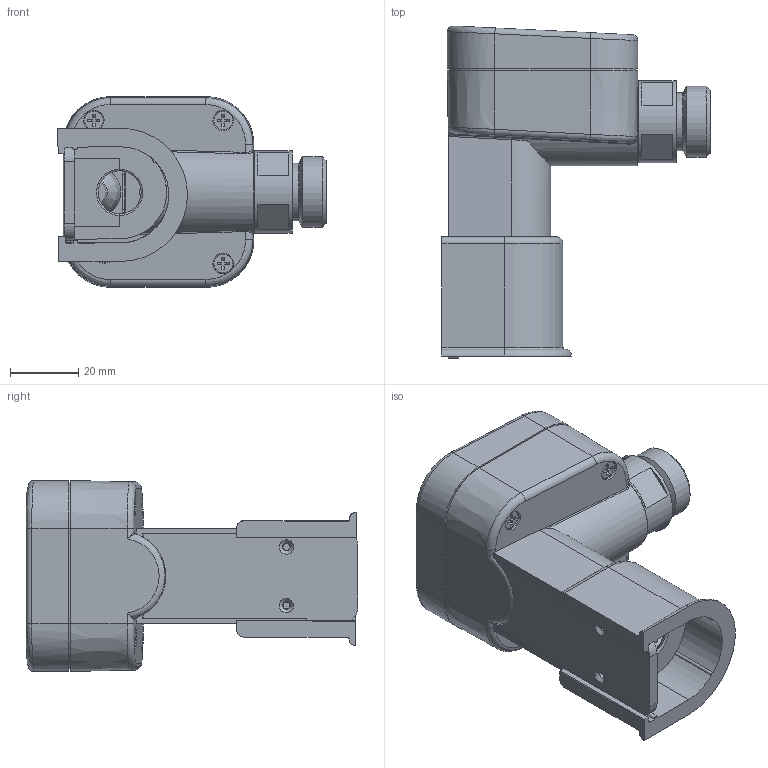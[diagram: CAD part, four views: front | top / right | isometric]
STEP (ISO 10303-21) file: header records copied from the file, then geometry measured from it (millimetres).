
FILE_DESCRIPTION((''),'2;1');
FILE_NAME('G:\HEC2.0\HQT_HEC- hiden cable_DAHL - Kopia\DAHL\HQT_NEX1.0.C_ hidden cable_10.stp','2019-05-02T10:38:59',('tomek_b'),(''),'Autodesk Inventor 2012','Autodesk Inventor 2012','');
FILE_SCHEMA(('AUTOMOTIVE_DESIGN { 1 0 10303 214 1 1 1 1 }'));
Products named in the file (21): HQT_HEC2.0- hiden cable_10; korpus; głowica_v2; oring60x1-2; BN 82427-3x20; odciazka; oring18x1; Zespół10; maskownica_cz1_10; maskownica_cz2_10; maskownica_cz3_20; front_HEC2.0_001_bez Bluetooth; HEC2.0_front_01_001; membrana_02_bez Bluetooth; membrana_01_002_bez Bluetooth; membrana_minus_01; membrana_plus_01; membrana_on-off_01; membrana_wskaznik_01; membrana_wskaznik_02; membrana_zegar_01
Assembly tree (25 placements, depth 4):
  HQT_HEC2.0- hiden cable_10
    korpus
    głowica_v2
    oring60x1-2
    BN 82427-3x20  x4
    odciazka
    oring18x1
    Zespół10
      maskownica_cz1_10
      maskownica_cz2_10
    maskownica_cz3_20
    front_HEC2.0_001_bez Bluetooth
      HEC2.0_front_01_001
      membrana_02_bez Bluetooth
        membrana_01_002_bez Bluetooth
        membrana_minus_01
        membrana_plus_01
        membrana_on-off_01
        membrana_wskaznik_01  x2
        membrana_wskaznik_02  x2
        membrana_zegar_01
Bounding box: 78.75 x 97.48 x 56 mm (x, y, z)
Volume: 58570.2 mm3; surface area: 63448.1 mm2
Topology: 25 solids, 25 shells, 724 faces, 1800 edges, 1152 vertices
Faces by surface type: plane 369, cylinder 217, bspline 70, cone 41, torus 27
Full cylindrical faces by diameter (mm): 1 x4, 2 x2, 2.2 x2, 2.4 x2, 2.6 x4, 3 x4, 3.2 x4, 3.6 x2, 4 x1, 4.2 x4, 5 x6, 5.5 x4, 6 x7, 6.4 x1, 6.6 x2, 8 x3, 9.4 x1, 10 x2, 11 x1, 16 x2, 17 x1, 18 x1, 19.1 x2, 19.3 x1, 20.8 x1, 21 x1, 24.1 x1
Entity records: 25020 total; most frequent: CARTESIAN_POINT 8937, DIRECTION 3257, ORIENTED_EDGE 3040, EDGE_CURVE 1520, AXIS2_PLACEMENT_3D 1235, VERTEX_POINT 1022, EDGE_LOOP 820, VECTOR 787
